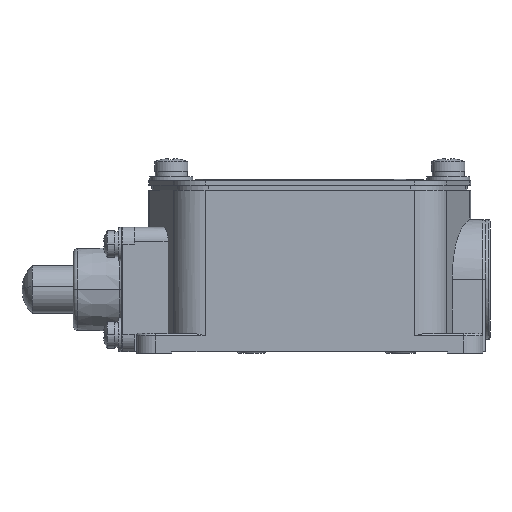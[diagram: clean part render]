
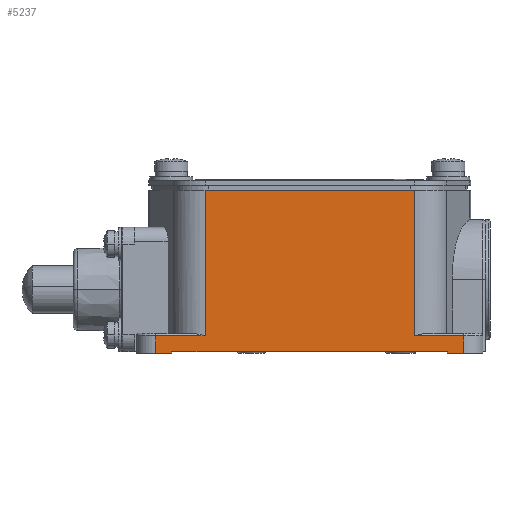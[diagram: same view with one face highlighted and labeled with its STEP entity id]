
A CAD part, front view. The second image highlights one B-rep face of the part: STEP entity #5237.
In plain terms, the highlighted planar face has unit normal (0, -1, 0).
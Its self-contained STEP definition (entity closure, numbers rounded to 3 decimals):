
#350=DIRECTION('',(1.,0.,0.));
#351=VECTOR('',#350,57.7);
#352=CARTESIAN_POINT('',(-28.85,-21.1,0.));
#353=LINE('',#352,#351);
#549=DIRECTION('',(1.,0.,0.));
#550=VECTOR('',#549,10.326);
#551=CARTESIAN_POINT('',(21.924,-21.1,3.3));
#552=LINE('',#551,#550);
#553=DIRECTION('',(0.,0.,1.));
#554=VECTOR('',#553,3.7);
#555=CARTESIAN_POINT('',(32.25,-21.1,-0.4));
#556=LINE('',#555,#554);
#557=DIRECTION('',(0.,0.,-1.));
#558=VECTOR('',#557,0.4);
#559=CARTESIAN_POINT('',(-28.85,-21.1,0.));
#560=LINE('',#559,#558);
#561=DIRECTION('',(0.,0.,-1.));
#562=VECTOR('',#561,3.7);
#563=CARTESIAN_POINT('',(-32.25,-21.1,3.3));
#564=LINE('',#563,#562);
#565=DIRECTION('',(1.,0.,0.));
#566=VECTOR('',#565,10.326);
#567=CARTESIAN_POINT('',(-32.25,-21.1,3.3));
#568=LINE('',#567,#566);
#718=DIRECTION('',(0.,0.,1.));
#719=VECTOR('',#718,30.5);
#720=CARTESIAN_POINT('',(21.924,-21.1,3.3));
#721=LINE('',#720,#719);
#745=DIRECTION('',(1.,0.,0.));
#746=VECTOR('',#745,43.849);
#747=CARTESIAN_POINT('',(-21.924,-21.1,33.8));
#748=LINE('',#747,#746);
#1238=DIRECTION('',(0.,0.,-1.));
#1239=VECTOR('',#1238,30.5);
#1240=CARTESIAN_POINT('',(-21.924,-21.1,33.8));
#1241=LINE('',#1240,#1239);
#2225=DIRECTION('',(0.,0.,-1.));
#2226=VECTOR('',#2225,0.4);
#2227=CARTESIAN_POINT('',(28.85,-21.1,0.));
#2228=LINE('',#2227,#2226);
#2251=DIRECTION('',(-1.,0.,0.));
#2252=VECTOR('',#2251,3.4);
#2253=CARTESIAN_POINT('',(32.25,-21.1,-0.4));
#2254=LINE('',#2253,#2252);
#2300=DIRECTION('',(-1.,0.,0.));
#2301=VECTOR('',#2300,3.4);
#2302=CARTESIAN_POINT('',(-28.85,-21.1,-0.4));
#2303=LINE('',#2302,#2301);
#3597=CARTESIAN_POINT('',(28.85,-21.1,-0.4));
#3599=VERTEX_POINT('',#3597);
#3611=CARTESIAN_POINT('',(-28.85,-21.1,-0.4));
#3612=VERTEX_POINT('',#3611);
#3629=CARTESIAN_POINT('',(28.85,-21.1,0.));
#3631=VERTEX_POINT('',#3629);
#3643=CARTESIAN_POINT('',(-28.85,-21.1,0.));
#3644=VERTEX_POINT('',#3643);
#3701=CARTESIAN_POINT('',(-21.924,-21.1,33.8));
#3702=VERTEX_POINT('',#3701);
#3703=CARTESIAN_POINT('',(21.924,-21.1,33.8));
#3705=VERTEX_POINT('',#3703);
#3710=CARTESIAN_POINT('',(32.25,-21.1,-0.4));
#3712=VERTEX_POINT('',#3710);
#3721=CARTESIAN_POINT('',(-32.25,-21.1,-0.4));
#3723=VERTEX_POINT('',#3721);
#3852=CARTESIAN_POINT('',(32.25,-21.1,3.3));
#3853=VERTEX_POINT('',#3852);
#3856=CARTESIAN_POINT('',(21.924,-21.1,3.3));
#3857=VERTEX_POINT('',#3856);
#3886=CARTESIAN_POINT('',(-32.25,-21.1,3.3));
#3887=CARTESIAN_POINT('',(-21.924,-21.1,3.3));
#3888=VERTEX_POINT('',#3886);
#3889=VERTEX_POINT('',#3887);
#5208=CARTESIAN_POINT('',(-36.25,-21.1,0.));
#5209=DIRECTION('',(0.,-1.,0.));
#5210=DIRECTION('',(1.,0.,0.));
#5211=AXIS2_PLACEMENT_3D('',#5208,#5209,#5210);
#5212=PLANE('',#5211);
#5214=ORIENTED_EDGE('',*,*,#5213,.T.);
#5216=ORIENTED_EDGE('',*,*,#5215,.F.);
#5218=ORIENTED_EDGE('',*,*,#5217,.T.);
#5220=ORIENTED_EDGE('',*,*,#5219,.F.);
#5221=ORIENTED_EDGE('',*,*,#5061,.F.);
#5223=ORIENTED_EDGE('',*,*,#5222,.T.);
#5225=ORIENTED_EDGE('',*,*,#5224,.T.);
#5227=ORIENTED_EDGE('',*,*,#5226,.F.);
#5228=ORIENTED_EDGE('',*,*,#5198,.T.);
#5230=ORIENTED_EDGE('',*,*,#5229,.F.);
#5232=ORIENTED_EDGE('',*,*,#5231,.T.);
#5234=ORIENTED_EDGE('',*,*,#5233,.F.);
#5235=EDGE_LOOP('',(#5214,#5216,#5218,#5220,#5221,#5223,#5225,#5227,#5228,#5230,
#5232,#5234));
#5236=FACE_OUTER_BOUND('',#5235,.F.);
#5237=ADVANCED_FACE('',(#5236),#5212,.T.);
#5061=EDGE_CURVE('',#3644,#3631,#353,.T.);
#5198=EDGE_CURVE('',#3888,#3889,#568,.T.);
#5213=EDGE_CURVE('',#3857,#3853,#552,.T.);
#5215=EDGE_CURVE('',#3712,#3853,#556,.T.);
#5217=EDGE_CURVE('',#3712,#3599,#2254,.T.);
#5219=EDGE_CURVE('',#3631,#3599,#2228,.T.);
#5222=EDGE_CURVE('',#3644,#3612,#560,.T.);
#5224=EDGE_CURVE('',#3612,#3723,#2303,.T.);
#5226=EDGE_CURVE('',#3888,#3723,#564,.T.);
#5229=EDGE_CURVE('',#3702,#3889,#1241,.T.);
#5231=EDGE_CURVE('',#3702,#3705,#748,.T.);
#5233=EDGE_CURVE('',#3857,#3705,#721,.T.);
